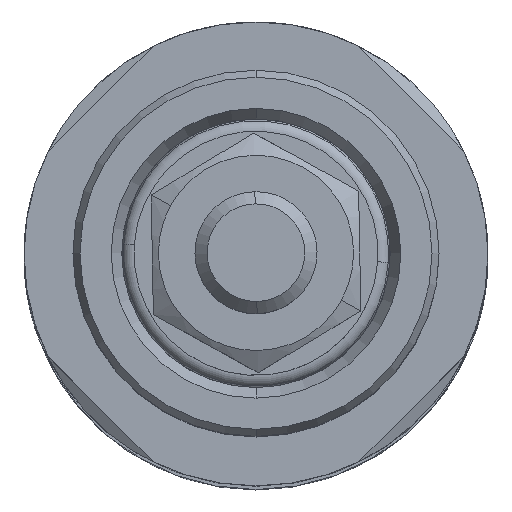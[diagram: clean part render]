
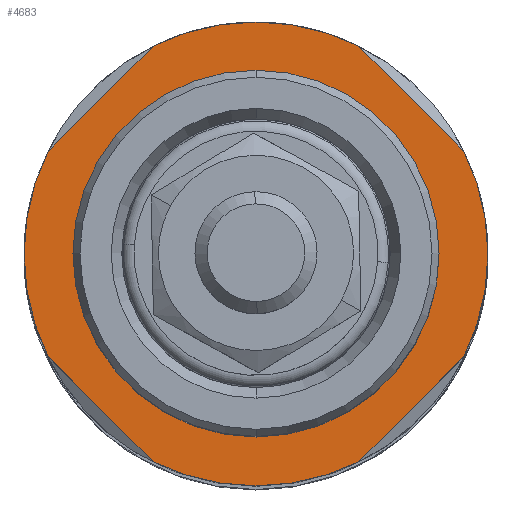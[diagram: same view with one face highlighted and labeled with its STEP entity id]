
A CAD part, top view. The second image highlights one B-rep face of the part: STEP entity #4683.
In plain terms, the highlighted planar face has unit normal (0, 0, 1).
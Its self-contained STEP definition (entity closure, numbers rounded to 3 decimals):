
#207 = DIRECTION ( 'NONE',  ( 1., 0., 0. ) ) ;
#238 = VERTEX_POINT ( 'NONE', #6528 ) ;
#248 = DIRECTION ( 'NONE',  ( 0., 0., 1. ) ) ;
#403 = ORIENTED_EDGE ( 'NONE', *, *, #6307, .F. ) ;
#408 = CARTESIAN_POINT ( 'NONE',  ( -12.728, -12.728, 0. ) ) ;
#450 = ORIENTED_EDGE ( 'NONE', *, *, #2659, .F. ) ;
#488 = DIRECTION ( 'NONE',  ( 1., 0., 0. ) ) ;
#522 = CIRCLE ( 'NONE', #1915, 19. ) ;
#584 = CARTESIAN_POINT ( 'NONE',  ( -12.728, 12.728, 0. ) ) ;
#585 = DIRECTION ( 'NONE',  ( 0., 0., 1. ) ) ;
#700 = EDGE_CURVE ( 'NONE', #2197, #238, #3222, .T. ) ;
#866 = VERTEX_POINT ( 'NONE', #7189 ) ;
#951 = CIRCLE ( 'NONE', #5247, 19. ) ;
#1365 = CIRCLE ( 'NONE', #2334, 19. ) ;
#1403 = VERTEX_POINT ( 'NONE', #6248 ) ;
#1491 = EDGE_CURVE ( 'NONE', #6254, #4380, #2787, .T. ) ;
#1730 = ORIENTED_EDGE ( 'NONE', *, *, #4653, .T. ) ;
#1737 = DIRECTION ( 'NONE',  ( 0., 0., 1. ) ) ;
#1915 = AXIS2_PLACEMENT_3D ( 'NONE', #3752, #8175, #6331 ) ;
#2003 = DIRECTION ( 'NONE',  ( 1., 0., 0. ) ) ;
#2014 = CIRCLE ( 'NONE', #5337, 19. ) ;
#2097 = CARTESIAN_POINT ( 'NONE',  ( 0., 15., 0. ) ) ;
#2133 = ORIENTED_EDGE ( 'NONE', *, *, #2603, .T. ) ;
#2197 = VERTEX_POINT ( 'NONE', #6426 ) ;
#2207 = VECTOR ( 'NONE', #6957, 1000. ) ;
#2334 = AXIS2_PLACEMENT_3D ( 'NONE', #6685, #5348, #207 ) ;
#2412 = VECTOR ( 'NONE', #5054, 1000. ) ;
#2421 = AXIS2_PLACEMENT_3D ( 'NONE', #5723, #585, #4447 ) ;
#2585 = LINE ( 'NONE', #408, #2207 ) ;
#2603 = EDGE_CURVE ( 'NONE', #2197, #4372, #2014, .T. ) ;
#2659 = EDGE_CURVE ( 'NONE', #3567, #3014, #2585, .T. ) ;
#2702 = EDGE_CURVE ( 'NONE', #1403, #866, #6413, .T. ) ;
#2787 = LINE ( 'NONE', #4348, #4093 ) ;
#2858 = ORIENTED_EDGE ( 'NONE', *, *, #1491, .F. ) ;
#2954 = CARTESIAN_POINT ( 'NONE',  ( 0., 0., 0. ) ) ;
#3001 = CARTESIAN_POINT ( 'NONE',  ( 0., 0., 0. ) ) ;
#3004 = LINE ( 'NONE', #3775, #3801 ) ;
#3014 = VERTEX_POINT ( 'NONE', #7448 ) ;
#3115 = ORIENTED_EDGE ( 'NONE', *, *, #2702, .T. ) ;
#3142 = ORIENTED_EDGE ( 'NONE', *, *, #6146, .F. ) ;
#3146 = DIRECTION ( 'NONE',  ( 0., 0., 1. ) ) ;
#3202 = VERTEX_POINT ( 'NONE', #7052 ) ;
#3220 = AXIS2_PLACEMENT_3D ( 'NONE', #2954, #7478, #3514 ) ;
#3221 = CARTESIAN_POINT ( 'NONE',  ( 0., 0., 0. ) ) ;
#3222 = LINE ( 'NONE', #584, #2412 ) ;
#3259 = CARTESIAN_POINT ( 'NONE',  ( 8.427, -17.029, 0. ) ) ;
#3514 = DIRECTION ( 'NONE',  ( 1., 0., 0. ) ) ;
#3536 = VERTEX_POINT ( 'NONE', #6801 ) ;
#3567 = VERTEX_POINT ( 'NONE', #6880 ) ;
#3675 = CARTESIAN_POINT ( 'NONE',  ( 0., 0., 0. ) ) ;
#3722 = AXIS2_PLACEMENT_3D ( 'NONE', #3675, #3146, #4402 ) ;
#3752 = CARTESIAN_POINT ( 'NONE',  ( 0., 0., 0. ) ) ;
#3775 = CARTESIAN_POINT ( 'NONE',  ( 12.728, 12.728, 0. ) ) ;
#3801 = VECTOR ( 'NONE', #7785, 1000. ) ;
#3897 = FACE_OUTER_BOUND ( 'NONE', #6335, .T. ) ;
#4093 = VECTOR ( 'NONE', #7007, 1000. ) ;
#4130 = CARTESIAN_POINT ( 'NONE',  ( 0., 0., 0. ) ) ;
#4348 = CARTESIAN_POINT ( 'NONE',  ( 12.728, -12.728, 0. ) ) ;
#4372 = VERTEX_POINT ( 'NONE', #5048 ) ;
#4380 = VERTEX_POINT ( 'NONE', #3259 ) ;
#4402 = DIRECTION ( 'NONE',  ( 1., 0., 0. ) ) ;
#4447 = DIRECTION ( 'NONE',  ( 1., 0., 0. ) ) ;
#4653 = EDGE_CURVE ( 'NONE', #6254, #1403, #522, .T. ) ;
#4675 = AXIS2_PLACEMENT_3D ( 'NONE', #3221, #5234, #2003 ) ;
#4683 = ADVANCED_FACE ( 'NONE', ( #7760, #3897 ), #6235, .T. ) ;
#5048 = CARTESIAN_POINT ( 'NONE',  ( -19., 0., 0. ) ) ;
#5054 = DIRECTION ( 'NONE',  ( 0.707, 0.707, 0. ) ) ;
#5234 = DIRECTION ( 'NONE',  ( 0., 0., 1. ) ) ;
#5247 = AXIS2_PLACEMENT_3D ( 'NONE', #3001, #1737, #488 ) ;
#5321 = VERTEX_POINT ( 'NONE', #2097 ) ;
#5337 = AXIS2_PLACEMENT_3D ( 'NONE', #7538, #6901, #7573 ) ;
#5348 = DIRECTION ( 'NONE',  ( 0., 0., 1. ) ) ;
#5356 = DIRECTION ( 'NONE',  ( 1., 0., 0. ) ) ;
#5428 = EDGE_LOOP ( 'NONE', ( #403, #3142 ) ) ;
#5611 = ORIENTED_EDGE ( 'NONE', *, *, #8037, .F. ) ;
#5643 = EDGE_CURVE ( 'NONE', #3202, #238, #6474, .T. ) ;
#5723 = CARTESIAN_POINT ( 'NONE',  ( 0., 0., 0. ) ) ;
#6091 = ORIENTED_EDGE ( 'NONE', *, *, #8156, .T. ) ;
#6094 = CARTESIAN_POINT ( 'NONE',  ( 17.029, -8.427, 0. ) ) ;
#6146 = EDGE_CURVE ( 'NONE', #3536, #5321, #8186, .T. ) ;
#6163 = ORIENTED_EDGE ( 'NONE', *, *, #700, .F. ) ;
#6235 = PLANE ( 'NONE',  #3722 ) ;
#6248 = CARTESIAN_POINT ( 'NONE',  ( 19., 0., 0. ) ) ;
#6254 = VERTEX_POINT ( 'NONE', #6094 ) ;
#6279 = ORIENTED_EDGE ( 'NONE', *, *, #7748, .T. ) ;
#6307 = EDGE_CURVE ( 'NONE', #5321, #3536, #7705, .T. ) ;
#6331 = DIRECTION ( 'NONE',  ( 1., 0., 0. ) ) ;
#6335 = EDGE_LOOP ( 'NONE', ( #2858, #1730, #3115, #5611, #8001, #6163, #2133, #6279, #450, #6091 ) ) ;
#6413 = CIRCLE ( 'NONE', #2421, 19. ) ;
#6426 = CARTESIAN_POINT ( 'NONE',  ( -17.029, 8.427, 0. ) ) ;
#6474 = CIRCLE ( 'NONE', #4675, 19. ) ;
#6528 = CARTESIAN_POINT ( 'NONE',  ( -8.427, 17.029, 0. ) ) ;
#6685 = CARTESIAN_POINT ( 'NONE',  ( 0., 0., 0. ) ) ;
#6796 = AXIS2_PLACEMENT_3D ( 'NONE', #4130, #248, #5356 ) ;
#6801 = CARTESIAN_POINT ( 'NONE',  ( 0., -15., 0. ) ) ;
#6880 = CARTESIAN_POINT ( 'NONE',  ( -8.427, -17.029, 0. ) ) ;
#6901 = DIRECTION ( 'NONE',  ( 0., 0., 1. ) ) ;
#6957 = DIRECTION ( 'NONE',  ( -0.707, 0.707, 0. ) ) ;
#7007 = DIRECTION ( 'NONE',  ( -0.707, -0.707, 0. ) ) ;
#7052 = CARTESIAN_POINT ( 'NONE',  ( 8.427, 17.029, 0. ) ) ;
#7189 = CARTESIAN_POINT ( 'NONE',  ( 17.029, 8.427, 0. ) ) ;
#7448 = CARTESIAN_POINT ( 'NONE',  ( -17.029, -8.427, 0. ) ) ;
#7478 = DIRECTION ( 'NONE',  ( 0., 0., 1. ) ) ;
#7538 = CARTESIAN_POINT ( 'NONE',  ( 0., 0., 0. ) ) ;
#7573 = DIRECTION ( 'NONE',  ( 1., 0., 0. ) ) ;
#7705 = CIRCLE ( 'NONE', #3220, 15. ) ;
#7748 = EDGE_CURVE ( 'NONE', #4372, #3014, #951, .T. ) ;
#7760 = FACE_BOUND ( 'NONE', #5428, .T. ) ;
#7785 = DIRECTION ( 'NONE',  ( 0.707, -0.707, 0. ) ) ;
#8001 = ORIENTED_EDGE ( 'NONE', *, *, #5643, .T. ) ;
#8037 = EDGE_CURVE ( 'NONE', #3202, #866, #3004, .T. ) ;
#8156 = EDGE_CURVE ( 'NONE', #3567, #4380, #1365, .T. ) ;
#8175 = DIRECTION ( 'NONE',  ( 0., 0., 1. ) ) ;
#8186 = CIRCLE ( 'NONE', #6796, 15. ) ;
